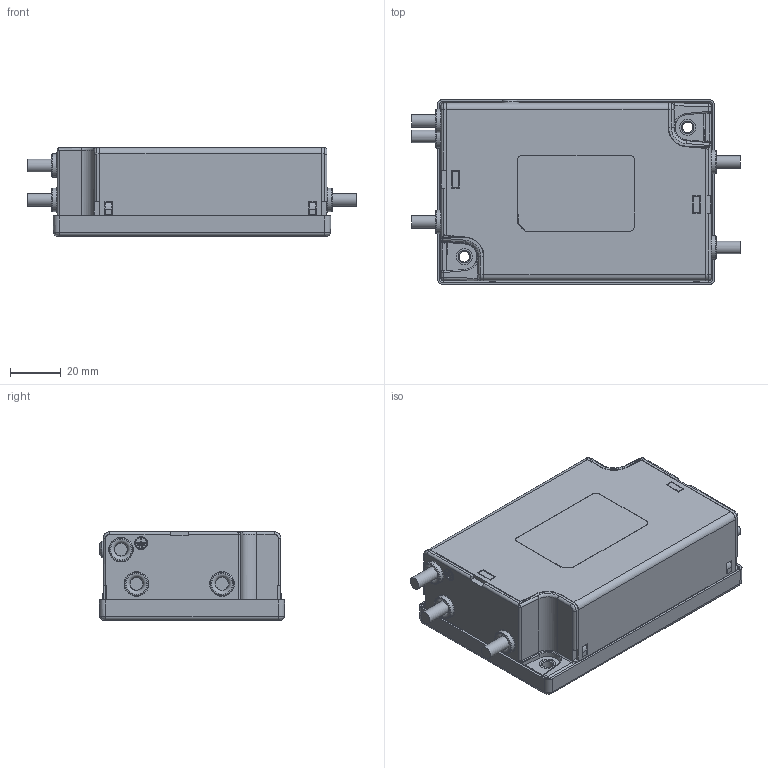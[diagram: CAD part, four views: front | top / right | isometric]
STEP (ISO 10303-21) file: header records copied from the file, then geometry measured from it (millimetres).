
FILE_DESCRIPTION(/* description */ (''),/* implementation_level */ '2;1');
FILE_NAME(/* name */ 'C:\Users\Christian.Ackermann\OneDrive - Schaffner EMV AG\Desktop\UMA_customerSTEP\FN250x-32-07.stp',/* time_stamp */ '2021-08-24T08:30:51+02:00',/* author */ ('Christian.Ackermann'),/* organization */ (''),/* preprocessor_version */ 'ST-DEVELOPER v18.1',/* originating_system */ 'Autodesk Inventor 2020',/* authorisation */ '');
FILE_SCHEMA (('AUTOMOTIVE_DESIGN { 1 0 10303 214 3 1 1 }'));
Length unit declared in the file: millimetre
Products named in the file (1): FN220x-xx-07-xx
Bounding box: 129.4 x 73 x 35.17 mm (x, y, z)
Volume: 249827.4 mm3; surface area: 44833.3 mm2
Topology: 5 solids, 5 shells, 1140 faces, 2884 edges, 1774 vertices
Faces by surface type: plane 494, cylinder 378, bspline 150, torus 46, sphere 42, cone 30
Full cylindrical faces by diameter (mm): 2 x1, 4.2 x2, 5 x5, 6.4 x2, 6.5 x1, 8.39 x4, 8.74 x6
Entity records: 39911 total; most frequent: CARTESIAN_POINT 11288, ORIENTED_EDGE 5760, DIRECTION 5708, EDGE_CURVE 2880, AXIS2_PLACEMENT_3D 2042, VERTEX_POINT 1774, LINE 1624, VECTOR 1624
